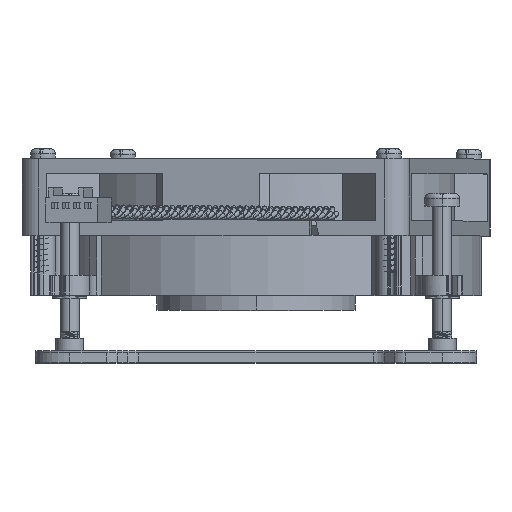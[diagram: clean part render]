
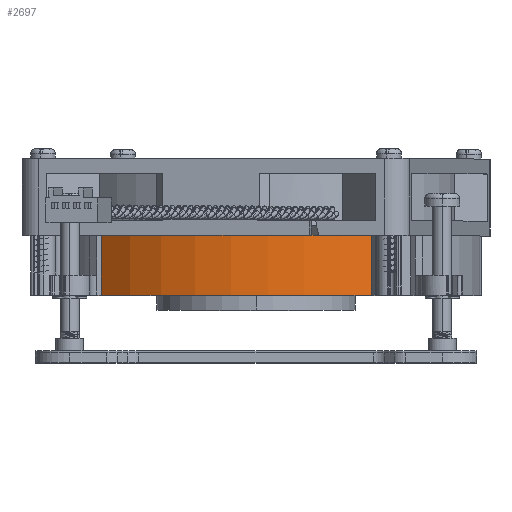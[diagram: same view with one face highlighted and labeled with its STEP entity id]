
A CAD part, top view. The second image highlights one B-rep face of the part: STEP entity #2697.
In plain terms, the highlighted cylindrical face has radius 45.1 mm (diameter 90.2 mm), a partial arc.
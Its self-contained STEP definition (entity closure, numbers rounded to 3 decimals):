
#18=CARTESIAN_POINT('',(1463.369,685.972,-0.008));
#19=DIRECTION('',(0.,-1.,0.));
#20=DIRECTION('',(0.515,0.,0.857));
#21=AXIS2_PLACEMENT_3D('',#18,#19,#20);
#591=DIRECTION('',(0.,-1.,0.));
#592=VECTOR('',#591,12.);
#593=CARTESIAN_POINT('',(1432.19,697.972,32.578));
#594=LINE('',#593,#592);
#631=CARTESIAN_POINT('',(1463.369,697.972,-0.008));
#632=DIRECTION('',(0.,-1.,0.));
#633=DIRECTION('',(0.515,0.,0.857));
#634=AXIS2_PLACEMENT_3D('',#631,#632,#633);
#971=DIRECTION('',(0.,-1.,0.));
#972=VECTOR('',#971,12.);
#973=CARTESIAN_POINT('',(1486.582,697.972,38.66));
#974=LINE('',#973,#972);
#2296=CARTESIAN_POINT('',(1486.582,697.972,38.66));
#2297=CARTESIAN_POINT('',(1486.582,685.972,38.66));
#2298=VERTEX_POINT('',#2296);
#2299=VERTEX_POINT('',#2297);
#2300=CARTESIAN_POINT('',(1432.19,697.972,32.578));
#2301=CARTESIAN_POINT('',(1432.19,685.972,32.578));
#2302=VERTEX_POINT('',#2300);
#2303=VERTEX_POINT('',#2301);
#2684=CARTESIAN_POINT('',(1463.369,685.972,
-0.008));
#2685=DIRECTION('',(0.,-1.,0.));
#2686=DIRECTION('',(1.,0.,0.));
#2687=AXIS2_PLACEMENT_3D('',#2684,#2685,#2686);
#2688=CYLINDRICAL_SURFACE('',#2687,45.1);
#2690=ORIENTED_EDGE('',*,*,#2689,.T.);
#2691=ORIENTED_EDGE('',*,*,#2315,.T.);
#2692=ORIENTED_EDGE('',*,*,#2567,.F.);
#2694=ORIENTED_EDGE('',*,*,#2693,.F.);
#2695=EDGE_LOOP('',(#2690,#2691,#2692,#2694));
#2696=FACE_OUTER_BOUND('',#2695,.F.);
#2697=ADVANCED_FACE('',(#2696),#2688,.T.);
#22=CIRCLE('',#21,45.1);
#635=CIRCLE('',#634,45.1);
#2315=EDGE_CURVE('',#2299,#2303,#22,.T.);
#2567=EDGE_CURVE('',#2302,#2303,#594,.T.);
#2689=EDGE_CURVE('',#2298,#2299,#974,.T.);
#2693=EDGE_CURVE('',#2298,#2302,#635,.T.);
